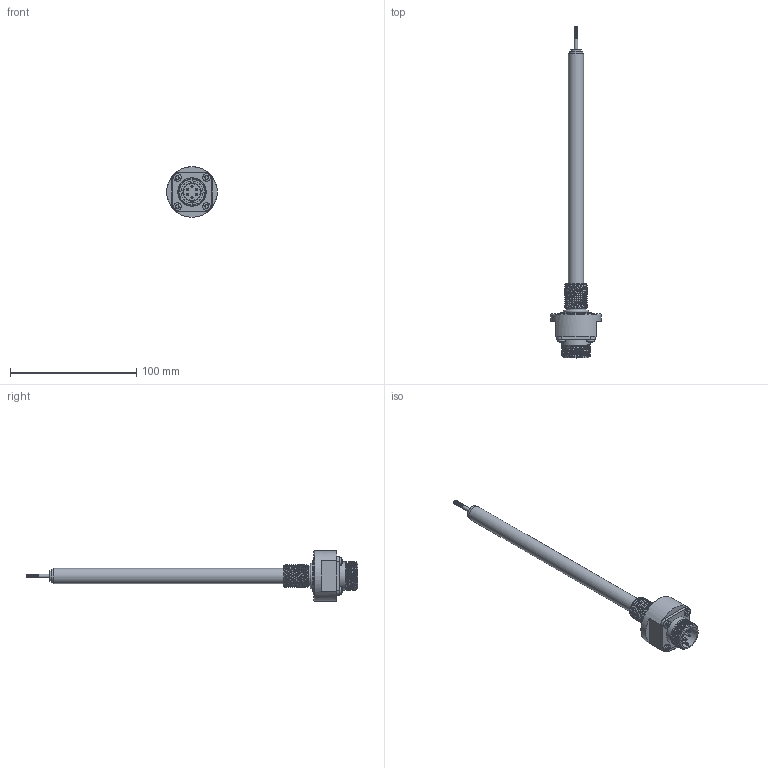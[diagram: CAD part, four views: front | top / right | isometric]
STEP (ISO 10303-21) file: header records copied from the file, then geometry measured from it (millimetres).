
FILE_DESCRIPTION( ( 'STEP AP214' ), '1' );
FILE_NAME( 'N:/Engineering/CAD_Solid/LVDT/HYD/Kunden-3D-Modell/SM50-HYD-18-S.stp', '2011-12-14T13:48:59', ( ' ' ), ( ' ' ), 'XStep 1.0', ' ', ' ' );
FILE_SCHEMA( ( 'CONFIG_CONTROL_DESIGN) ( )' ) );
Length unit declared in the file: metre
Products named in the file (18): 1; 2; 3; 4; 5; 6; 7; 8; 9; 10; 11; 12; 13; 14; 15; 16; 17; 18
Bounding box: 40 x 262.9 x 40 mm (x, y, z)
Surface area: 21462.4 mm2
Topology: 1 solids, 132 shells, 140 faces, 626 edges, 580 vertices
Faces by surface type: plane 77, cylinder 38, bspline 13, cone 7, sphere 4, torus 1
Full cylindrical faces by diameter (mm): 1.6 x6, 2.4 x1, 3 x1, 4 x1, 6 x5, 8 x1, 11 x1, 12 x1, 15.8 x1, 17.6 x1, 20.2 x1, 22.3 x7, 24 x1, 40 x1
Entity records: 16841 total; most frequent: CARTESIAN_POINT 11477, DIRECTION 1014, ORIENTED_EDGE 552, EDGE_CURVE 552, VERTEX_POINT 552, AXIS2_PLACEMENT_3D 380, LINE 254, VECTOR 254
